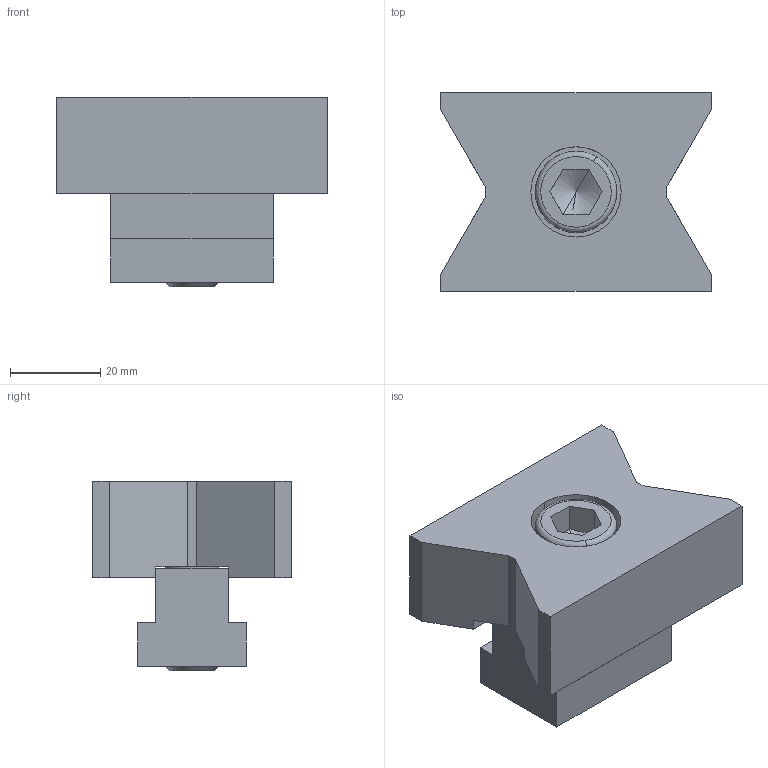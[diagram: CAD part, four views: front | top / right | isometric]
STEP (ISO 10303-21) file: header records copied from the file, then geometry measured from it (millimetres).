
FILE_DESCRIPTION (( 'STEP AP203' ), '1' );
FILE_NAME ('mr-s-v.STEP', '2021-10-26T02:18:20', ( '' ), ( '' ), 'SwSTEP 2.0', 'SolidWorks 2020', '' );
FILE_SCHEMA (( 'CONFIG_CONTROL_DESIGN' ));
Length unit declared in the file: millimetre
Products named in the file (1): mr-s-v
Bounding box: 60 x 44 x 42 mm (x, y, z)
Volume: 60495.6 mm3; surface area: 14604.5 mm2
Topology: 1 solids, 1 shells, 51 faces, 138 edges, 89 vertices
Faces by surface type: plane 37, cylinder 8, cone 4, bspline 2
Entity records: 1723 total; most frequent: CARTESIAN_POINT 367, ORIENTED_EDGE 272, DIRECTION 252, EDGE_CURVE 136, VECTOR 104, LINE 104, VERTEX_POINT 89, AXIS2_PLACEMENT_3D 74
